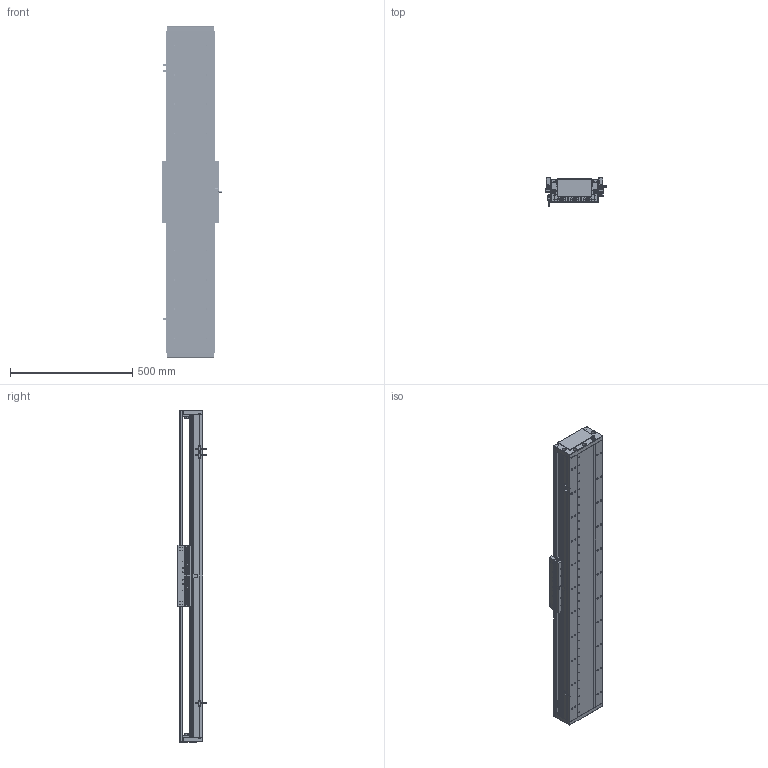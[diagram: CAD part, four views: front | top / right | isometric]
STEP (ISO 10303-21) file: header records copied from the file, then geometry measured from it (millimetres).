
FILE_DESCRIPTION (( 'STEP AP203' ), '1' );
FILE_NAME ('DA-C195-C3-T1020-C010-0.2 眻盄萇儂.STEP', '2025-08-15T01:40:38', ( '' ), ( '' ), 'SwSTEP 2.0', 'SolidWorks 2019', '' );
FILE_SCHEMA (( 'CONFIG_CONTROL_DESIGN' ));
Length unit declared in the file: millimetre
Products named in the file (12): 66156-0001-003-00 裔啣; LMT黍杅芛; 葩璃 DA95-GT-T-00; IU-CU195-L 菁釱絳寢; DA95-HXJ-00 遣喳砎蝶; DA195-DG-H-00  端盖（压铸镂空版）; DA165-GYP-00 光电感应片(默认); DA-C195-C3-T1020-C010-0.2 眻盄萇儂; CU195-C3賑輸-俋楷; MS200 棠掑喜S315-T240; PM-T45ㄗ侂狟ㄘ; IU-CU195-L-00 菁釱(L1320)
Assembly tree (20 placements, depth 3):
  DA-C195-C3-T1020-C010-0.2 眻盄萇儂
    IU-CU195-L 菁釱絳寢
      IU-CU195-L-00 菁釱(L1320)
      葩璃 DA95-GT-T-00  x4
    LMT黍杅芛
    MS200 棠掑喜S315-T240
    PM-T45ㄗ侂狟ㄘ  x3
    DA165-GYP-00 光电感应片(默认)
    DA195-DG-H-00  端盖（压铸镂空版）  x2
    DA95-HXJ-00 遣喳砎蝶  x4
    66156-0001-003-00 裔啣
    CU195-C3賑輸-俋楷
Bounding box: 248 x 115.6 x 1360 mm (x, y, z)
Volume: 9726075.1 mm3; surface area: 2754779 mm2
Topology: 78 solids, 118 shells, 5255 faces, 13576 edges, 8275 vertices
Faces by surface type: cylinder 2320, plane 1601, bspline 710, cone 544, torus 44, sphere 36
Entity records: 147155 total; most frequent: CARTESIAN_POINT 45989, ORIENTED_EDGE 21238, DIRECTION 20254, EDGE_CURVE 10619, AXIS2_PLACEMENT_3D 7539, VERTEX_POINT 6705, LINE 5176, VECTOR 5176
